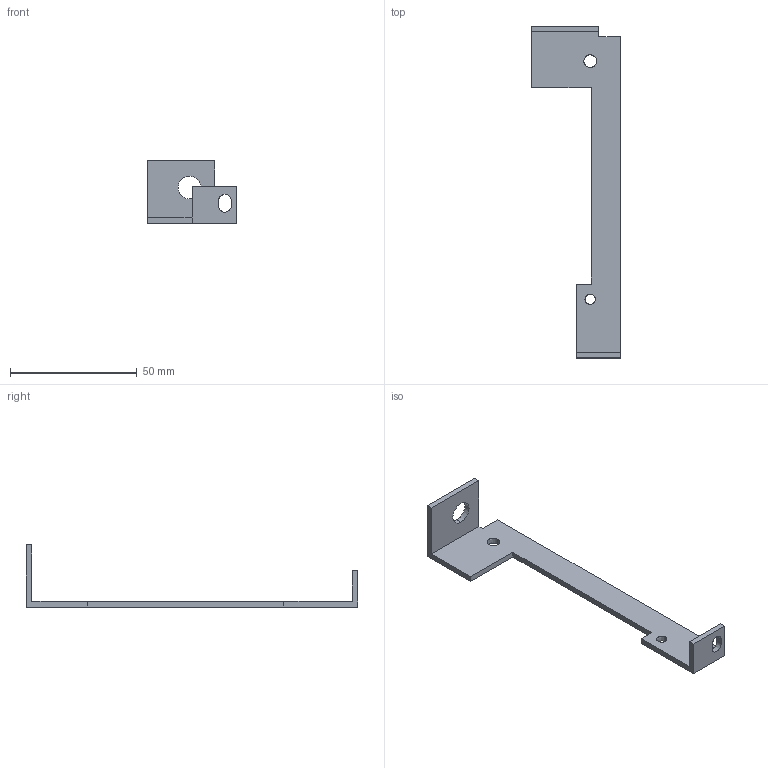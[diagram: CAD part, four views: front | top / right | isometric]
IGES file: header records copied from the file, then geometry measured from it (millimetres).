
Start section:  PTC IGES file: j4-du9-11-ste1.igs
Global section: file name: j4-du9-11-ste1.igs; native system: Creo Parametric by Parametric Technology Corporation; preprocessor: 2014310; author: JR20012; organization: Unknown; date: 20160927.133802; units: millimetre
Bounding box: 35 x 131 x 24.5 mm (x, y, z)
Volume: 6643.3 mm3; surface area: 6901.5 mm2
Topology: 1 solids, 1 shells, 26 faces, 72 edges, 48 vertices
Faces by surface type: bspline 26
